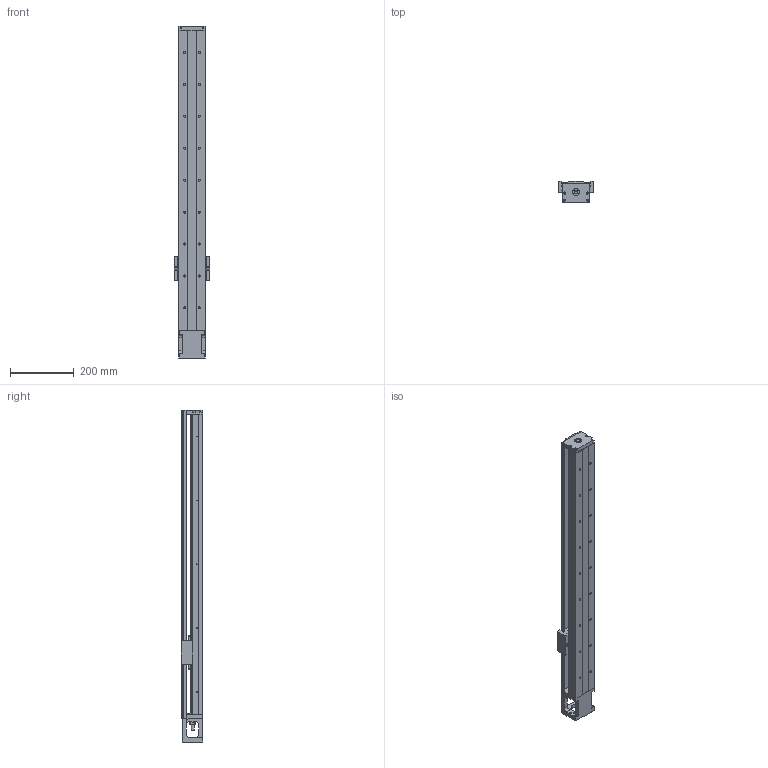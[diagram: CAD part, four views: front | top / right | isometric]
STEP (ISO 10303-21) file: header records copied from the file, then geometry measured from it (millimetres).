
FILE_DESCRIPTION(/* description */ (''),/* implementation_level */ '2;1');
FILE_NAME(/* name */ 'KP46N-940-C-D.stp',/* time_stamp */ '2020-06-05T10:01:20+08:00',/* author */ (''),/* organization */ (''),/* preprocessor_version */ 'ST-DEVELOPER v14',/* originating_system */ 'SIEMENS PLM Software NX 8.0',/* authorisation */ '');
FILE_SCHEMA (('AUTOMOTIVE_DESIGN { 1 0 10303 214 3 1 1 1 }'));
Length unit declared in the file: millimetre
Products named in the file (1): model1
Bounding box: 112 x 68 x 1040 mm (x, y, z)
Volume: 2607185.5 mm3; surface area: 645469.2 mm2
Topology: 11 solids, 23 shells, 766 faces, 2009 edges, 1321 vertices
Faces by surface type: plane 354, cylinder 279, cone 72, bspline 53, torus 8
Full cylindrical faces by diameter (mm): 2.11 x4, 2.15 x10, 2.42 x8, 2.5 x4, 3 x6, 3.2 x4, 3.3 x12, 3.4 x4, 4 x4, 4.2 x4, 4.5 x8, 5 x14, 6 x8, 6.35 x2, 6.6 x18, 9.6 x1, 10 x4, 11 x18, 12 x1, 14.95 x2, 15 x1, 16 x2, 22 x3, 27.5 x1, 44 x1, 50 x1
Entity records: 33644 total; most frequent: CARTESIAN_POINT 13452, ORIENTED_EDGE 3398, DIRECTION 3361, EDGE_CURVE 1699, AXIS2_PLACEMENT_3D 1251, VERTEX_POINT 1230, EDGE_LOOP 1087, LINE 859
